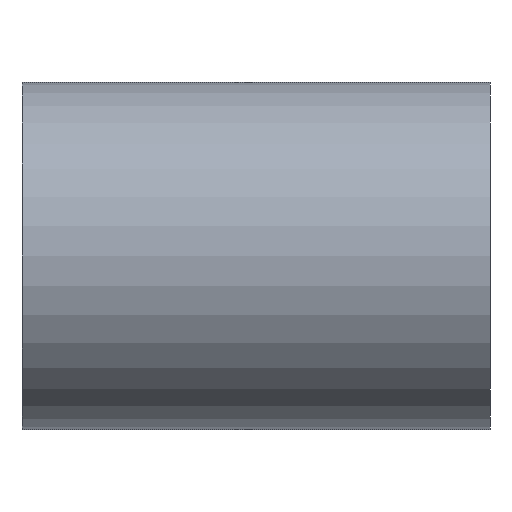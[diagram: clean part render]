
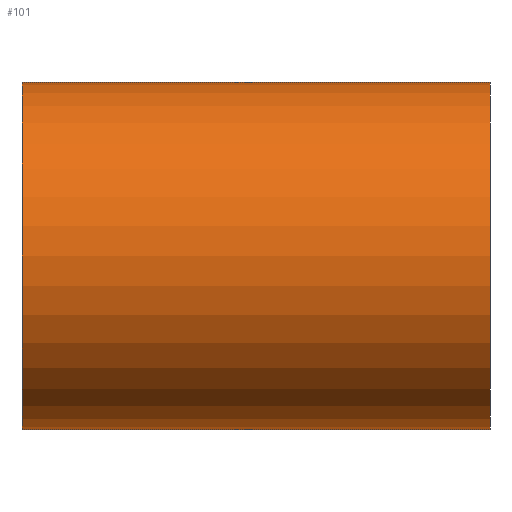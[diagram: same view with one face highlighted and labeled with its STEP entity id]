
A CAD part, front view. The second image highlights one B-rep face of the part: STEP entity #101.
In plain terms, the highlighted cylindrical face has radius 11.5 mm (diameter 23 mm), a full revolution.
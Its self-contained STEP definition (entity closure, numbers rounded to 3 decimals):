
#25=FACE_BOUND('',#48,.T.);
#33=FACE_OUTER_BOUND('',#47,.T.);
#47=EDGE_LOOP('',(#87));
#48=EDGE_LOOP('',(#88));
#57=CIRCLE('',#117,11.5);
#58=CIRCLE('',#119,11.5);
#65=VERTEX_POINT('',#174);
#66=VERTEX_POINT('',#177);
#73=EDGE_CURVE('',#65,#65,#57,.T.);
#74=EDGE_CURVE('',#66,#66,#58,.T.);
#87=ORIENTED_EDGE('',*,*,#73,.F.);
#88=ORIENTED_EDGE('',*,*,#74,.F.);
#94=CYLINDRICAL_SURFACE('',#118,11.5);
#101=ADVANCED_FACE('',(#33,#25),#94,.T.);
#117=AXIS2_PLACEMENT_3D('',#175,#147,#148);
#118=AXIS2_PLACEMENT_3D('',#176,#149,#150);
#119=AXIS2_PLACEMENT_3D('',#178,#151,#152);
#147=DIRECTION('center_axis',(-1.,0.,0.));
#148=DIRECTION('ref_axis',(0.,-1.,0.));
#149=DIRECTION('center_axis',(1.,0.,0.));
#150=DIRECTION('ref_axis',(0.,-1.,0.));
#151=DIRECTION('center_axis',(1.,0.,0.));
#152=DIRECTION('ref_axis',(0.,-1.,0.));
#174=CARTESIAN_POINT('',(-15.5,11.5,0.));
#175=CARTESIAN_POINT('Origin',(-15.5,0.,0.));
#176=CARTESIAN_POINT('Origin',(0.,0.,0.));
#177=CARTESIAN_POINT('',(15.5,11.5,0.));
#178=CARTESIAN_POINT('Origin',(15.5,0.,0.));
